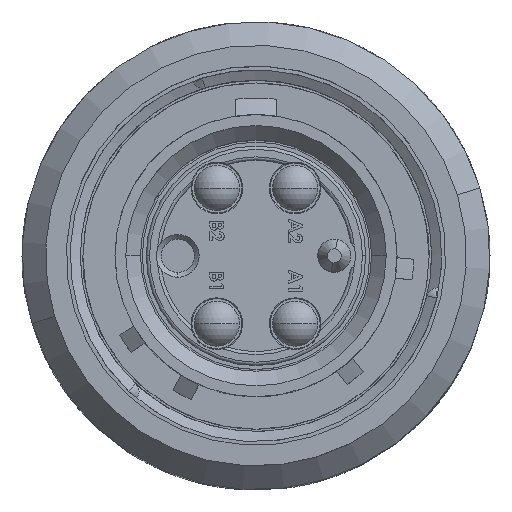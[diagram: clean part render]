
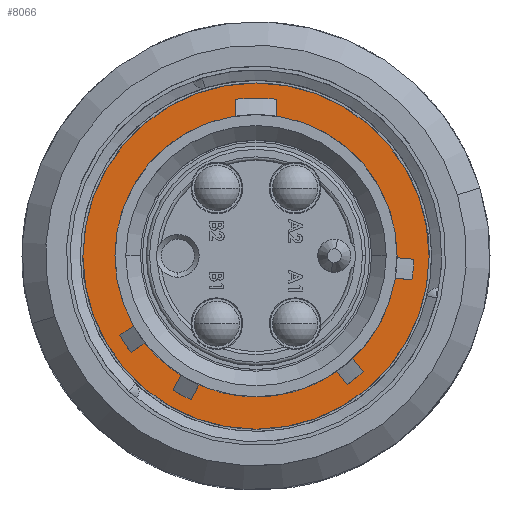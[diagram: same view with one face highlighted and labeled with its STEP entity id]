
A CAD part, top view. The second image highlights one B-rep face of the part: STEP entity #8066.
In plain terms, the highlighted planar face has unit normal (0, 0, 1).
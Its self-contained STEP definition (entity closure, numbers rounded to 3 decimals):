
#1491 = VERTEX_POINT ( 'NONE', #14155 ) ;
#1794 = AXIS2_PLACEMENT_3D ( 'NONE', #20936, #29425, #23715 ) ;
#2511 = ORIENTED_EDGE ( 'NONE', *, *, #10591, .T. ) ;
#2940 = CARTESIAN_POINT ( 'NONE',  ( 8.26, 0., 9.703 ) ) ;
#3118 = FACE_BOUND ( 'NONE', #5542, .T. ) ;
#5254 = ORIENTED_EDGE ( 'NONE', *, *, #5430, .T. ) ;
#5430 = EDGE_CURVE ( 'NONE', #1491, #16782, #13460, .T. ) ;
#5542 = EDGE_LOOP ( 'NONE', ( #19353, #8401 ) ) ;
#6984 = DIRECTION ( 'NONE',  ( 1., 0., 0. ) ) ;
#7167 = DIRECTION ( 'NONE',  ( 0., 0., 1. ) ) ;
#7354 = CARTESIAN_POINT ( 'NONE',  ( 0., 0., 9.703 ) ) ;
#7750 = AXIS2_PLACEMENT_3D ( 'NONE', #7354, #18625, #24912 ) ;
#8066 = ADVANCED_FACE ( 'NONE', ( #3118, #22331 ), #14190, .F. ) ;
#8401 = ORIENTED_EDGE ( 'NONE', *, *, #28186, .F. ) ;
#10591 = EDGE_CURVE ( 'NONE', #16782, #1491, #24270, .T. ) ;
#13460 = CIRCLE ( 'NONE', #16431, 10.503 ) ;
#13967 = VERTEX_POINT ( 'NONE', #2940 ) ;
#14155 = CARTESIAN_POINT ( 'NONE',  ( 10.503, 0., 9.703 ) ) ;
#14190 = PLANE ( 'NONE',  #17351 ) ;
#14930 = CARTESIAN_POINT ( 'NONE',  ( 0., 0., 9.703 ) ) ;
#15537 = CARTESIAN_POINT ( 'NONE',  ( -10.503, 0., 9.703 ) ) ;
#16431 = AXIS2_PLACEMENT_3D ( 'NONE', #14930, #7167, #6984 ) ;
#16782 = VERTEX_POINT ( 'NONE', #15537 ) ;
#17351 = AXIS2_PLACEMENT_3D ( 'NONE', #19741, #34112, #33396 ) ;
#18369 = DIRECTION ( 'NONE',  ( 1., 0., 0. ) ) ;
#18625 = DIRECTION ( 'NONE',  ( 0., 0., 1. ) ) ;
#19353 = ORIENTED_EDGE ( 'NONE', *, *, #31555, .F. ) ;
#19428 = AXIS2_PLACEMENT_3D ( 'NONE', #32206, #21138, #18369 ) ;
#19741 = CARTESIAN_POINT ( 'NONE',  ( 0., 8.26, 9.703 ) ) ;
#19997 = CIRCLE ( 'NONE', #19428, 8.26 ) ;
#20936 = CARTESIAN_POINT ( 'NONE',  ( 0., 0., 9.703 ) ) ;
#21138 = DIRECTION ( 'NONE',  ( 0., 0., 1. ) ) ;
#22331 = FACE_OUTER_BOUND ( 'NONE', #28957, .T. ) ;
#23715 = DIRECTION ( 'NONE',  ( 1., 0., 0. ) ) ;
#24270 = CIRCLE ( 'NONE', #7750, 10.503 ) ;
#24912 = DIRECTION ( 'NONE',  ( 1., 0., 0. ) ) ;
#25602 = VERTEX_POINT ( 'NONE', #35842 ) ;
#28186 = EDGE_CURVE ( 'NONE', #25602, #13967, #19997, .T. ) ;
#28957 = EDGE_LOOP ( 'NONE', ( #5254, #2511 ) ) ;
#29425 = DIRECTION ( 'NONE',  ( 0., 0., 1. ) ) ;
#31555 = EDGE_CURVE ( 'NONE', #13967, #25602, #34212, .T. ) ;
#32206 = CARTESIAN_POINT ( 'NONE',  ( 0., 0., 9.703 ) ) ;
#33396 = DIRECTION ( 'NONE',  ( -1., 0., 0. ) ) ;
#34112 = DIRECTION ( 'NONE',  ( 0., 0., -1. ) ) ;
#34212 = CIRCLE ( 'NONE', #1794, 8.26 ) ;
#35842 = CARTESIAN_POINT ( 'NONE',  ( -8.26, 0., 9.703 ) ) ;
